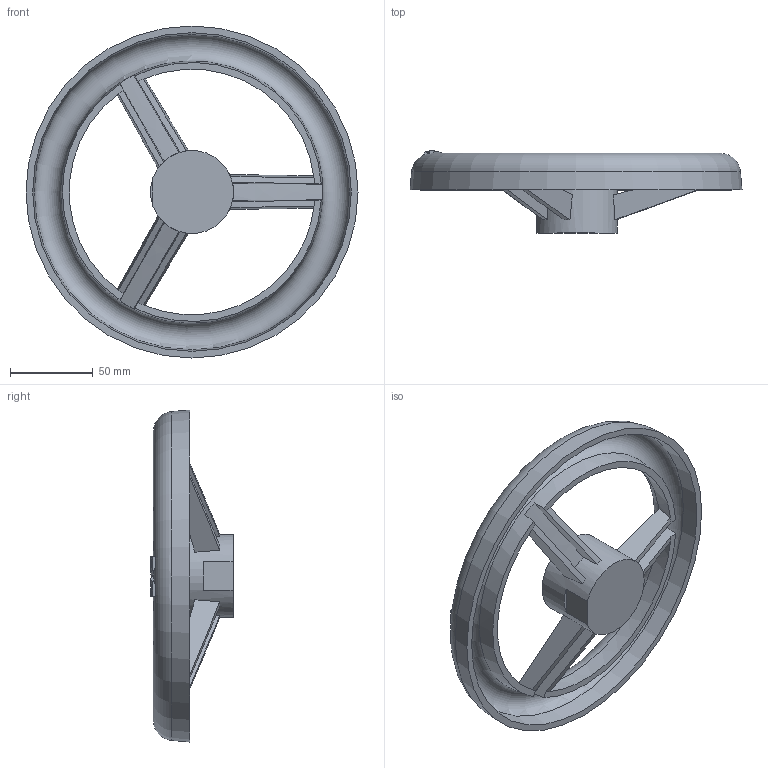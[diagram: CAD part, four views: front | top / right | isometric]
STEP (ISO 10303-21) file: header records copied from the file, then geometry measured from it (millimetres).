
FILE_DESCRIPTION (( 'STEP AP203' ), '1' );
FILE_NAME ('O_08_66_DN100_AA0.step', '2018-07-17T10:47:58', ( 'Windows User' ), ( 'AVK' ), 'SwSTEP 2.0', 'SolidWorks 2012', '' );
FILE_SCHEMA (( 'CONFIG_CONTROL_DESIGN' ));
Length unit declared in the file: millimetre
Products named in the file (1): O_08_66_DN100_AA0
Bounding box: 200 x 49.5 x 200 mm (x, y, z)
Volume: 208766.1 mm3; surface area: 82203.6 mm2
Topology: 1 solids, 1 shells, 138 faces, 376 edges, 244 vertices
Faces by surface type: plane 57, bspline 45, cone 28, torus 6, cylinder 2
Full cylindrical faces by diameter (mm): 16 x1, 50 x1
Entity records: 7258 total; most frequent: CARTESIAN_POINT 4295, ORIENTED_EDGE 726, DIRECTION 378, EDGE_CURVE 363, VERTEX_POINT 239, B_SPLINE_CURVE_WITH_KNOTS 220, EDGE_LOOP 156, AXIS2_PLACEMENT_3D 147
